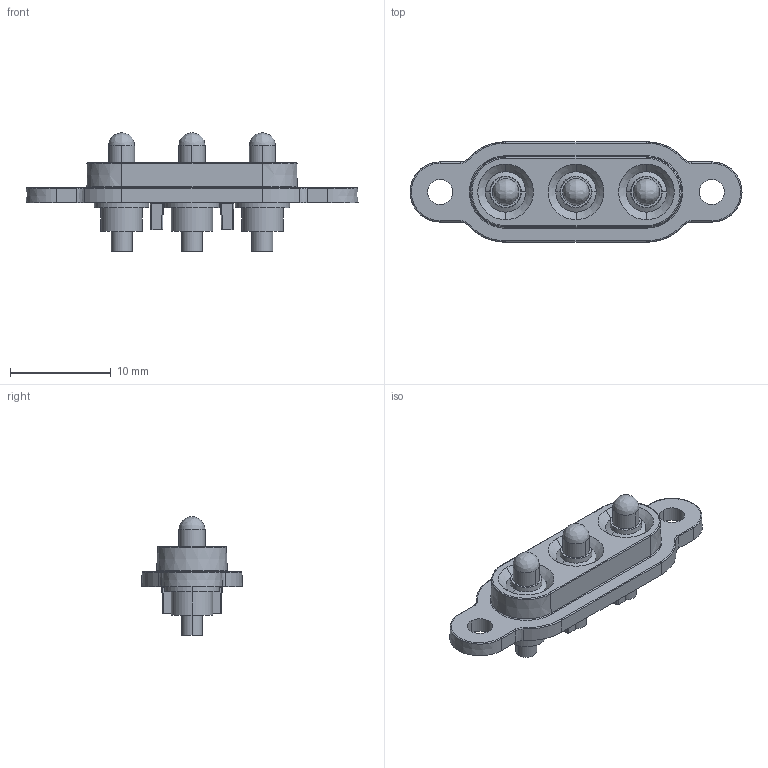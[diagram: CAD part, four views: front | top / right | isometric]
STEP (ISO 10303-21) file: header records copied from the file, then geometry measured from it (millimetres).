
FILE_DESCRIPTION (( 'STEP AP214' ), '1' );
FILE_NAME ('Swift-Dock-3-SC.STEP', '2021-08-06T12:46:18', ( '' ), ( '' ), 'SwSTEP 2.0', 'SolidWorks 2021', '' );
FILE_SCHEMA (( 'AUTOMOTIVE_DESIGN' ));
Length unit declared in the file: millimetre
Products named in the file (6): Coda_PD11JST_assy_5; SD3SC_SD3SC_NO PCB; Swift-Dock-3-SC; Coda_PD11JST_pin_5; body_3 hole_2; Coda_PD11JST_body_5
Assembly tree (7 placements, depth 4):
  Swift-Dock-3-SC
    SD3SC_SD3SC_NO PCB
      body_3 hole_2
      Coda_PD11JST_assy_5  x3
        Coda_PD11JST_body_5
        Coda_PD11JST_pin_5
Bounding box: 33 x 10 x 11.8 mm (x, y, z)
Volume: 873.5 mm3; surface area: 1561.4 mm2
Topology: 7 solids, 7 shells, 208 faces, 464 edges, 279 vertices
Faces by surface type: cylinder 90, cone 48, plane 45, bspline 25
Entity records: 5927 total; most frequent: CARTESIAN_POINT 1166, DIRECTION 668, ORIENTED_EDGE 624, EDGE_CURVE 312, AXIS2_PLACEMENT_3D 267, VERTEX_POINT 189, EDGE_LOOP 157, UNCERTAINTY_MEASURE_WITH_UNIT 150
